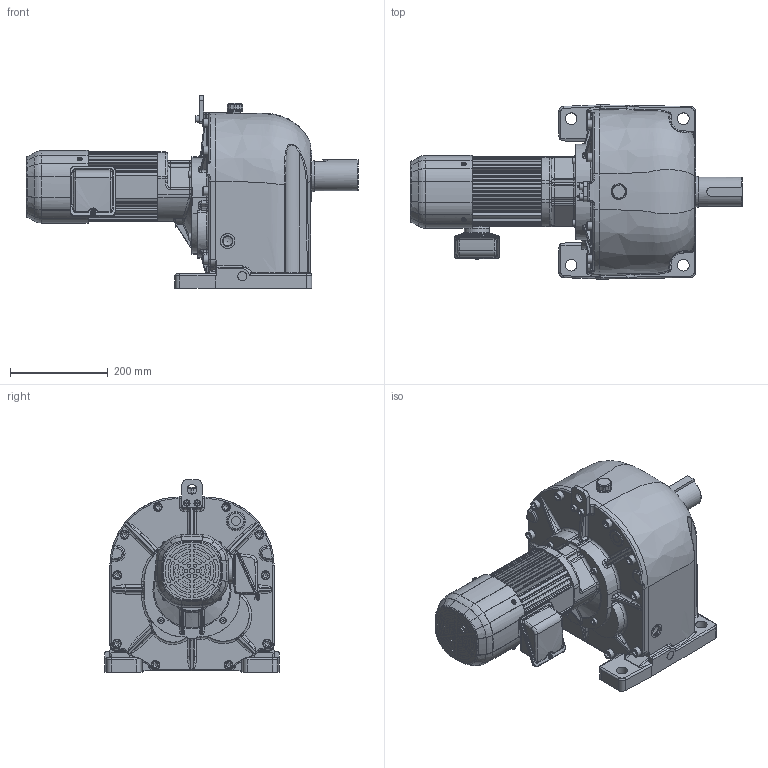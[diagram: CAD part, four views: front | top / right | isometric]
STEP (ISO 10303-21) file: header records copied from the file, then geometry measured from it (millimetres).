
FILE_DESCRIPTION( ( 'Unknown' ), '1' );
FILE_NAME( 'X:/gear/gm/3D-WEB/IE3/DP/ﾊﾟｰﾂ/完成品/dpb_075_540-900.stp', 'Unknown', ( 'Unknown' ), ( 'Unknown' ), 'PSStep 14.0', 'Unknown', ' ' );
FILE_SCHEMA( ( 'AUTOMOTIVE_DESIGN { 1 0 10303 214 1 1 1 1 }' ) );
Length unit declared in the file: millimetre
Products named in the file (4): \X2\67A\X0\
Bounding box: 680 x 357 x 395 mm (x, y, z)
Volume: 26042234.4 mm3; surface area: 1443472.6 mm2
Topology: 4 solids, 46 shells, 2342 faces, 5807 edges, 3652 vertices
Faces by surface type: cylinder 979, plane 844, torus 187, bspline 181, cone 113, sphere 38
Full cylindrical faces by diameter (mm): 3.8 x6, 4.134 x4, 4.2 x8, 4.8 x1, 5.5 x4, 5.6 x1, 5.8 x4, 6 x8, 6.647 x6, 7 x5, 8 x10, 8.376 x1, 10 x12, 10.106 x10, 12 x14, 13 x10, 13.5 x4, 14 x7, 15 x10, 16 x1, 18 x11, 18.5 x1, 18.531 x2, 19.727 x2, 20 x1, 20.5 x1, 21 x2, 21.6 x2, 22.5 x1, 23 x1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
Entity records: 123239 total; most frequent: CARTESIAN_POINT 50508, DIRECTION 11885, ORIENTED_EDGE 10564, EDGE_CURVE 5282, AXIS2_PLACEMENT_3D 4782, VERTEX_POINT 3498, EDGE_LOOP 2825, FACE_OUTER_BOUND 2559
